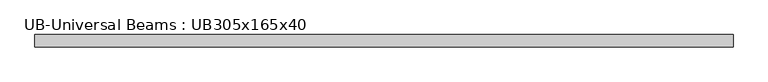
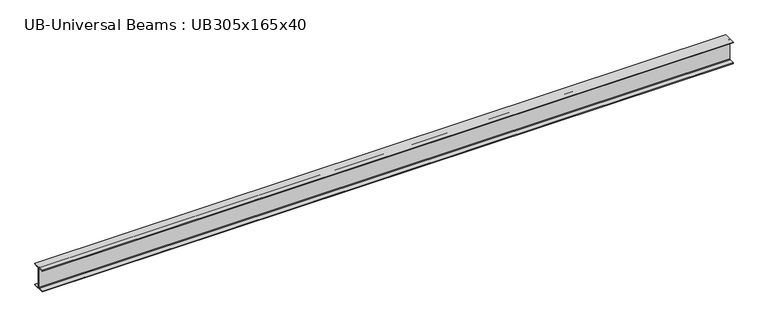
"""IFC4 building model written with IfcOpenShell, lengths in millimetres: beam geometry, UB-Universal Beams : UB305x165x40."""

from ifc_helpers import new_model, si_unit, point, frame, frame_2d, origin, place, context, project, spatial, polyline, circle_curve, trimmed, segment, composite_curve, outline, extrude, source, transform, mapped, element, save


def ub_universal_beams_ub305x165x40_f3545ca2(model_context):
    return source(origin(), model_context, "Body", "SweptSolid", [
        extrude(outline(composite_curve([segment(polyline([(82.5, -141.5), (82.5, -151.7), (-82.5, -151.7), (-82.5, -141.5), (-11.9, -141.5)]), True, "CONTINUOUS"), segment(trimmed(circle_curve(frame_2d((-11.9, -132.6)), 8.9), [point((-11.9, -141.5))], [point((-3.0, -132.6))], True, "CARTESIAN"), True, "CONTINUOUS"), segment(polyline([(-3.0, -132.6), (-3.0, 132.6)]), True, "CONTINUOUS"), segment(trimmed(circle_curve(frame_2d((-11.9, 132.6)), 8.9), [point((-3.0, 132.6))], [point((-11.9, 141.5))], True, "CARTESIAN"), True, "CONTINUOUS"), segment(polyline([(-11.9, 141.5), (-82.5, 141.5), (-82.5, 151.7), (82.5, 151.7), (82.5, 141.5), (11.9, 141.5)]), True, "CONTINUOUS"), segment(trimmed(circle_curve(frame_2d((11.9, 132.6)), 8.9), [point((11.9, 141.5))], [point((3.0, 132.6))], True, "CARTESIAN"), True, "CONTINUOUS"), segment(polyline([(3.0, 132.6), (3.0, -132.6)]), True, "CONTINUOUS"), segment(trimmed(circle_curve(frame_2d((11.9, -132.6)), 8.9), [point((3.0, -132.6))], [point((11.9, -141.5))], True, "CARTESIAN"), True, "CONTINUOUS"), segment(polyline([(11.9, -141.5), (82.5, -141.5)]), True, "CONTINUOUS")], self_intersect=False)), frame((-4602.55, 0.0, 0.0), z_axis=(1.0, 0.0, 0.0), x_axis=(0.0, 1.0, 0.0)), (0.0, 0.0, 1.0), 9181.2),
    ])


if __name__ == "__main__":
    model = new_model("IFC4")
    model_context = context("Model", 3, world=origin())
    ifc_project = project(units=[si_unit("LENGTHUNIT", "METRE", prefix="MILLI")], contexts=[model_context])
    site = spatial("IfcSite", under=ifc_project)
    building = spatial("IfcBuilding", under=site)
    placement = place(None, origin())
    ub_universal_beams_ub305x165x40_shape = ub_universal_beams_ub305x165x40_f3545ca2(model_context)
    element("IfcBeam", 1, ObjectType="UB-Universal Beams : UB305x165x40", at=placement, inside=building, context=model_context, shape_type="MappedRepresentation", body=[
        mapped(ub_universal_beams_ub305x165x40_shape, transform((0.0, 0.0, 0.0), x_axis=(1.0, 0.0, 0.0), y_axis=(0.0, 1.0, 0.0), z_axis=(0.0, 0.0, 1.0))),
    ])
    save(model, "model.ifc")
